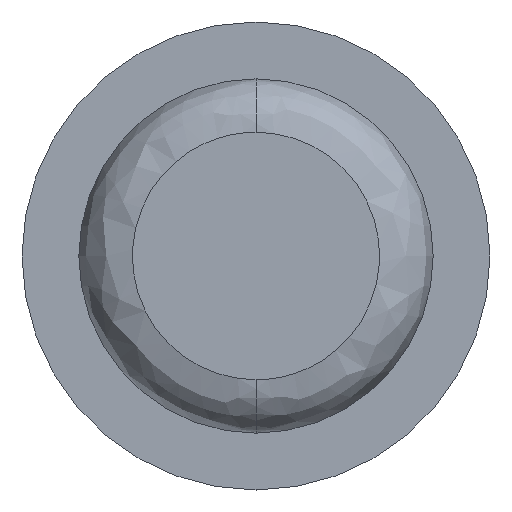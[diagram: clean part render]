
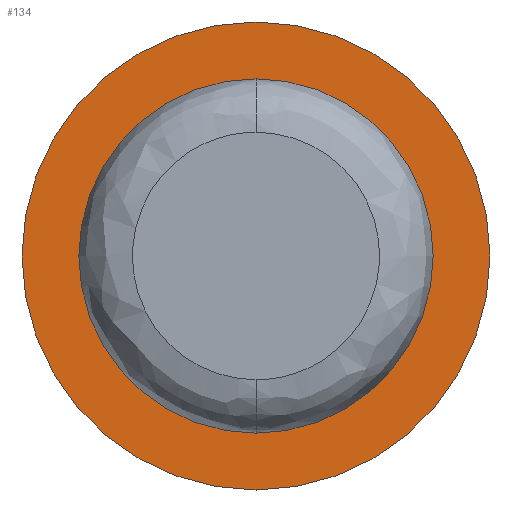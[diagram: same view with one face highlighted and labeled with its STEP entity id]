
A CAD part, front view. The second image highlights one B-rep face of the part: STEP entity #134.
In plain terms, the highlighted planar face has unit normal (0, -1, 0).
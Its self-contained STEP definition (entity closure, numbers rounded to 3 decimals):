
#8 = ORIENTED_EDGE ( 'NONE', *, *, #454, .T. ) ;
#27 = AXIS2_PLACEMENT_3D ( 'NONE', #441, #161, #50 ) ;
#47 = CARTESIAN_POINT ( 'NONE',  ( 0., 7.9, 0. ) ) ;
#50 = DIRECTION ( 'NONE',  ( 0., 0., -1. ) ) ;
#67 = ORIENTED_EDGE ( 'NONE', *, *, #171, .F. ) ;
#85 = CARTESIAN_POINT ( 'NONE',  ( 0., 7.9, 0. ) ) ;
#91 = VERTEX_POINT ( 'NONE', #426 ) ;
#97 = CARTESIAN_POINT ( 'NONE',  ( 0., 7.9, -1.325 ) ) ;
#126 = DIRECTION ( 'NONE',  ( 0., -1., 0. ) ) ;
#134 = ADVANCED_FACE ( 'NONE', ( #459, #261 ), #180, .T. ) ;
#142 = DIRECTION ( 'NONE',  ( 0., -1., 0. ) ) ;
#161 = DIRECTION ( 'NONE',  ( 0., -1., 0. ) ) ;
#164 = VERTEX_POINT ( 'NONE', #199 ) ;
#166 = EDGE_CURVE ( 'NONE', #91, #445, #252, .T. ) ;
#171 = EDGE_CURVE ( 'NONE', #445, #91, #472, .T. ) ;
#180 = PLANE ( 'NONE',  #366 ) ;
#193 = EDGE_LOOP ( 'NONE', ( #67, #196 ) ) ;
#196 = ORIENTED_EDGE ( 'NONE', *, *, #166, .F. ) ;
#199 = CARTESIAN_POINT ( 'NONE',  ( 0., 7.9, 1.75 ) ) ;
#214 = AXIS2_PLACEMENT_3D ( 'NONE', #85, #232, #354 ) ;
#232 = DIRECTION ( 'NONE',  ( 0., -1., 0. ) ) ;
#234 = ORIENTED_EDGE ( 'NONE', *, *, #238, .T. ) ;
#238 = EDGE_CURVE ( 'NONE', #164, #283, #427, .T. ) ;
#252 = CIRCLE ( 'NONE', #409, 1.325 ) ;
#261 = FACE_OUTER_BOUND ( 'NONE', #325, .T. ) ;
#269 = DIRECTION ( 'NONE',  ( 0., 0., -1. ) ) ;
#283 = VERTEX_POINT ( 'NONE', #303 ) ;
#303 = CARTESIAN_POINT ( 'NONE',  ( 0., 7.9, -1.75 ) ) ;
#305 = DIRECTION ( 'NONE',  ( 0., 0., -1. ) ) ;
#316 = DIRECTION ( 'NONE',  ( 0., -1., 0. ) ) ;
#319 = AXIS2_PLACEMENT_3D ( 'NONE', #47, #126, #269 ) ;
#325 = EDGE_LOOP ( 'NONE', ( #8, #234 ) ) ;
#344 = CIRCLE ( 'NONE', #214, 1.75 ) ;
#354 = DIRECTION ( 'NONE',  ( 0., 0., -1. ) ) ;
#357 = DIRECTION ( 'NONE',  ( 0., 0., -1. ) ) ;
#366 = AXIS2_PLACEMENT_3D ( 'NONE', #495, #142, #305 ) ;
#409 = AXIS2_PLACEMENT_3D ( 'NONE', #430, #316, #357 ) ;
#426 = CARTESIAN_POINT ( 'NONE',  ( 0., 7.9, 1.325 ) ) ;
#427 = CIRCLE ( 'NONE', #27, 1.75 ) ;
#430 = CARTESIAN_POINT ( 'NONE',  ( 0., 7.9, 0. ) ) ;
#441 = CARTESIAN_POINT ( 'NONE',  ( 0., 7.9, 0. ) ) ;
#445 = VERTEX_POINT ( 'NONE', #97 ) ;
#454 = EDGE_CURVE ( 'NONE', #283, #164, #344, .T. ) ;
#459 = FACE_BOUND ( 'NONE', #193, .T. ) ;
#472 = CIRCLE ( 'NONE', #319, 1.325 ) ;
#495 = CARTESIAN_POINT ( 'NONE',  ( 1.325, 7.9, 0. ) ) ;
